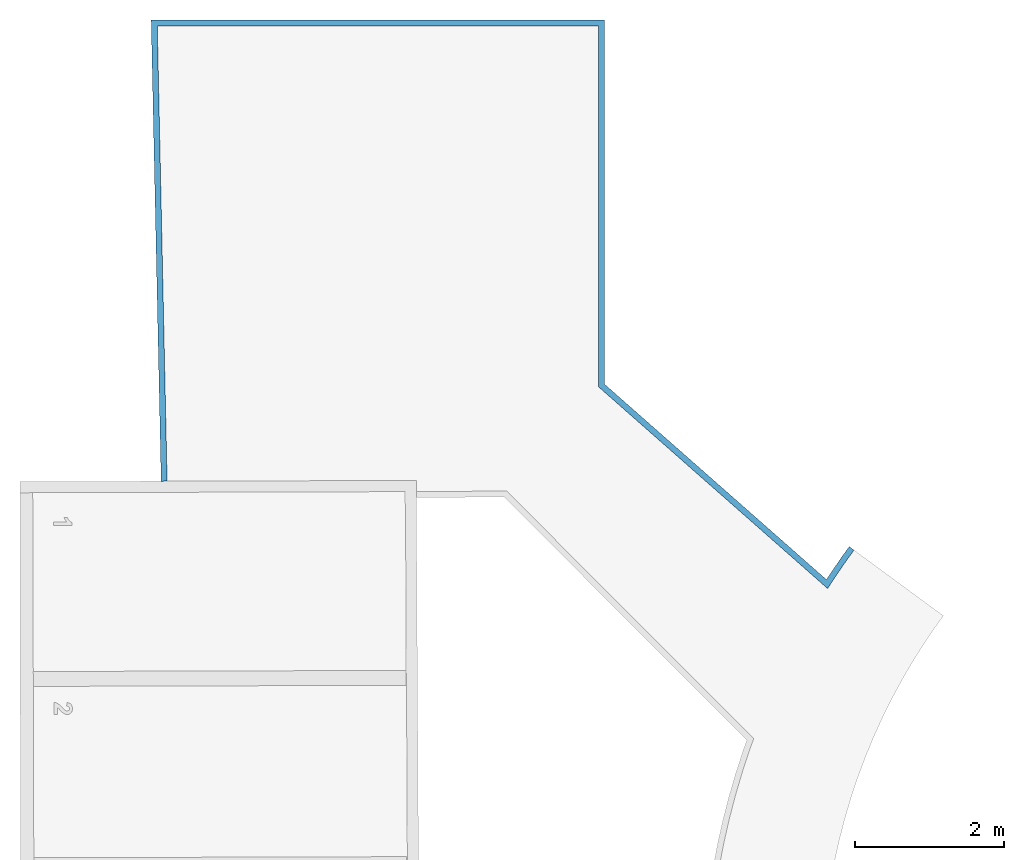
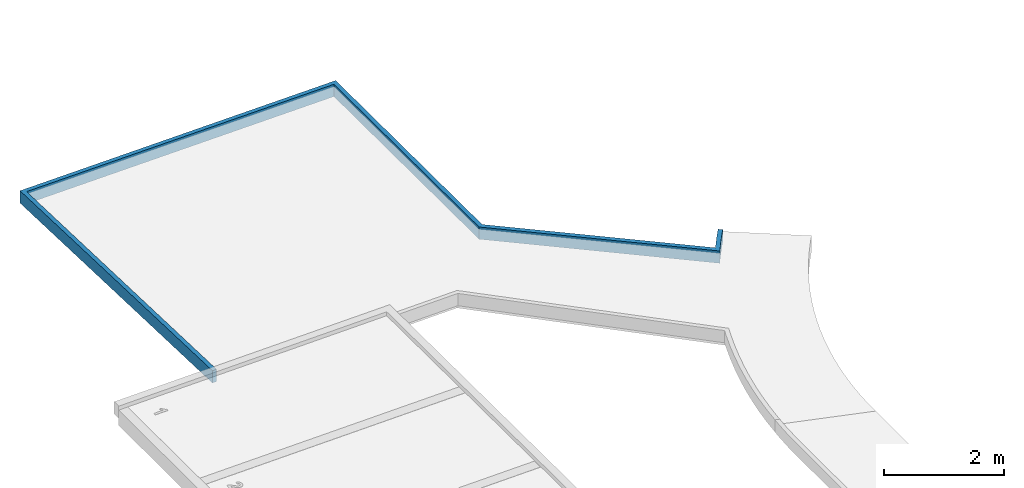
# One storey, part 8 of 8: 1 slab.
"""IFC4 building model written with IfcOpenShell, lengths in millimetres."""

from ifc_helpers import new_model, entity, si_unit, converted_unit, derived_unit, direction, frame, origin_with_axes, place, context, subcontext, project, spatial, polygons, material, type_object, element, save


model = new_model("IFC4")

# Units and contexts
model_context = context("Model", 3, precision=0.01, world=origin_with_axes(), true_north=direction((0.0, 1.0)))
body_context = subcontext(model_context, "Body", "Model", "MODEL_VIEW")
ifc_project = project(units=[si_unit("LENGTHUNIT", "METRE", prefix="MILLI"), si_unit("AREAUNIT", "SQUARE_METRE"), si_unit("VOLUMEUNIT", "CUBIC_METRE"), converted_unit("PLANEANGLEUNIT", "DEGREE", entity("IfcPlaneAngleMeasure", 0.0174532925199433), si_unit("PLANEANGLEUNIT", "RADIAN"), dimensions=[0, 0, 0, 0, 0, 0, 0]), converted_unit("TIMEUNIT", "Year", entity("IfcTimeMeasure", 31557600.0), si_unit("TIMEUNIT", "SECOND"), dimensions=[0, 0, 1, 0, 0, 0, 0]), si_unit("MASSUNIT", "GRAM", prefix="KILO"), si_unit("THERMODYNAMICTEMPERATUREUNIT", "DEGREE_CELSIUS"), si_unit("LUMINOUSINTENSITYUNIT", "LUMEN"), si_unit("ENERGYUNIT", "JOULE", prefix="MEGA"), derived_unit("THERMALCONDUCTANCEUNIT", [(si_unit("POWERUNIT", "WATT"), 1), (si_unit("LENGTHUNIT", "METRE"), -1), (si_unit("THERMODYNAMICTEMPERATUREUNIT", "KELVIN"), -1)]), derived_unit("SPECIFICHEATCAPACITYUNIT", [(si_unit("ENERGYUNIT", "JOULE"), 1), (si_unit("MASSUNIT", "GRAM", prefix="KILO"), -1), (si_unit("THERMODYNAMICTEMPERATUREUNIT", "KELVIN"), -1)]), derived_unit("MASSDENSITYUNIT", [(si_unit("MASSUNIT", "GRAM", prefix="KILO"), 1), (si_unit("VOLUMEUNIT", "CUBIC_METRE"), -1)])], contexts=[model_context])

# Site, building, storey
site_placement = place(None, origin_with_axes())
site = spatial("IfcSite", under=ifc_project, at=site_placement, Name="Exteriér", CompositionType="ELEMENT")
building_placement = place(site_placement, origin_with_axes())
building = spatial("IfcBuilding", under=site, at=building_placement, Name="Univerzitní lezecké centrum", CompositionType="ELEMENT")
storey_placement = place(building_placement, origin_with_axes())
storey = spatial("IfcBuildingStorey", under=building, at=storey_placement, Name="1.NP", CompositionType="ELEMENT", Elevation=0.0)

# Slab
ifc_material = material(Name="Beton prostý")
slab_type = type_object("IfcSlabType", Name="Beton prostý  250", PredefinedType="ROOF")
slab_placement = place(storey_placement, frame((-5910.148351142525, 8400.000000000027, -150.0), z_axis=(0.0, 0.0, 1.0), x_axis=(0.3117806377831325, 0.9501541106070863, 0.0)))
element("IfcSlab", 1, at=slab_placement, inside=storey, type_object=slab_type, material=ifc_material, PredefinedType="ROOF", context=body_context, shape_type="Tessellation", body=[
    polygons([(3654.507571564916, 10542.90117861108, 39.19197142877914), (3681.083183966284, 10467.44432454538, 40.70110851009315), (9445.901025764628, 12497.79089047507, 0.09417719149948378), (11293.23654753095, 6871.221672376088, 112.6255615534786), (6690.679383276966, 5360.093485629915, 142.8481252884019), (5075.85976450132, 1592.178247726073, 218.2064300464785), (5224.424770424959, 1553.708922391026, 218.9758165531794), (5527.193863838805, 1464.967618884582, 220.7506426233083), (5677.094405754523, 1415.816187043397, 221.733671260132), (5701.671974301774, 1491.947278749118, 220.2110494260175), (5548.564504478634, 1541.375301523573, 219.2224889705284), (5239.423277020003, 1630.660286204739, 217.4367892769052), (5185.100108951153, 1643.985163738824, 217.1702917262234), (6749.973750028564, 5295.35970059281, 144.142800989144), (11394.19993323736, 6820.168810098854, 113.6466187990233), (9496.414178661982, 12600.39810977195, -1.957967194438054), (3654.507571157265, 10542.90117890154, -210.85802357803), (3681.083183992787, 10467.44432458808, -209.3488864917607), (9445.90102536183, 12497.7908904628, -249.955817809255), (11293.23654742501, 6871.221672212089, -137.4244334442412), (6690.679383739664, 5360.093485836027, -107.2018697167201), (5075.859764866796, 1592.178247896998, -31.84356495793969), (5224.424770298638, 1553.708922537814, -31.07417845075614), (5527.193864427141, 1464.967619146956, -29.29935238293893), (5677.094405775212, 1415.816186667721, -28.31632373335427), (5701.671974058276, 1491.947278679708, -29.83894557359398), (5548.56450421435, 1541.375301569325, -30.82750603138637), (5239.423276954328, 1630.660286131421, -32.61320572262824), (5185.100108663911, 1643.985164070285, -32.87970328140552), (6749.97375001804, 5295.359700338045, -105.9071940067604), (11394.19993320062, 6820.16880982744, -136.4033761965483), (9496.414178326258, 12600.39810944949, -252.0079621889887)], [[[1, 2, 3, 4, 5, 6, 7, 8, 9, 10, 11, 12, 13, 14, 15, 16]], [[2, 1, 17, 18]], [[3, 2, 18, 19]], [[4, 3, 19, 20]], [[4, 20, 21, 5]], [[6, 5, 21, 22]], [[7, 6, 22, 23]], [[8, 7, 23, 24]], [[9, 8, 24, 25]], [[10, 9, 25, 26]], [[11, 10, 26, 27]], [[12, 11, 27, 28]], [[13, 12, 28, 29]], [[14, 13, 29, 30]], [[15, 14, 30, 31]], [[16, 15, 31, 32]], [[1, 16, 32, 17]], [[18, 17, 32, 31, 30, 29, 28, 27, 26, 25, 24, 23, 22, 21, 20, 19]]], closed=True),
])

save(model, "model.ifc")
